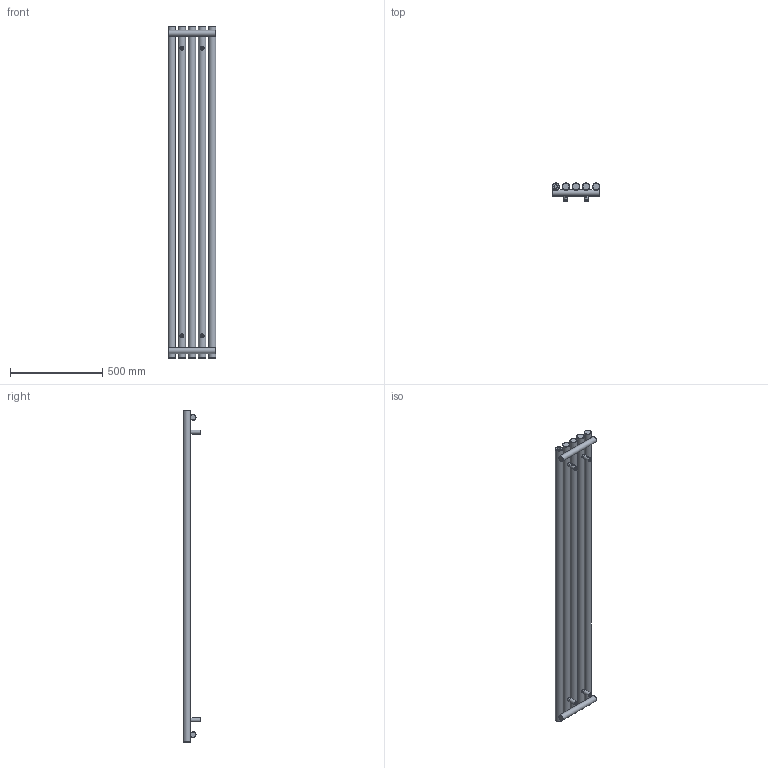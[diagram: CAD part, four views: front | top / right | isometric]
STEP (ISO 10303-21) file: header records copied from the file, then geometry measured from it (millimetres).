
FILE_DESCRIPTION(/* description */ (''),/* implementation_level */ '2;1');
FILE_NAME(/* name */ 'Z:\R\G\P\RGP116 - Grzejniki Geyser\Work\Inventor\Circolo (Rolo V, Rolo H)\ROLO-ROOM\Marketing\Zaokrąglone\WGROR180026-SX-CK-(Z).stp',/* time_stamp */ '2024-01-19T11:45:16+01:00',/* author */ ('NowAd'),/* organization */ (''),/* preprocessor_version */ 'ST-DEVELOPER v17.2',/* originating_system */ 'Autodesk Inventor 2019',/* authorisation */ '');
FILE_SCHEMA (('AUTOMOTIVE_DESIGN { 1 0 10303 214 3 1 1 }'));
Length unit declared in the file: millimetre
Products named in the file (3): WGROR180026-SX-CK-(Z); PGROR180026-SX-CK-(K); CK-V-fi40 marketing
Assembly tree (5 placements, depth 2):
  WGROR180026-SX-CK-(Z)
    PGROR180026-SX-CK-(K)
    CK-V-fi40 marketing  x4
Bounding box: 260 x 96.5 x 1800 mm (x, y, z)
Volume: 11766661.5 mm3; surface area: 1225357 mm2
Topology: 5 solids, 5 shells, 319 faces, 804 edges, 538 vertices
Faces by surface type: plane 133, cylinder 74, cone 60, torus 42, bspline 10
Full cylindrical faces by diameter (mm): 4.134 x4, 4.48 x4, 6.4 x4, 10 x4, 12 x4, 15.834 x4, 16 x4, 18.631 x3, 22 x4, 32 x2, 40 x5
Entity records: 6638 total; most frequent: CARTESIAN_POINT 3348, DIRECTION 689, ORIENTED_EDGE 646, EDGE_CURVE 323, AXIS2_PLACEMENT_3D 307, VERTEX_POINT 220, EDGE_LOOP 175, CIRCLE 165
